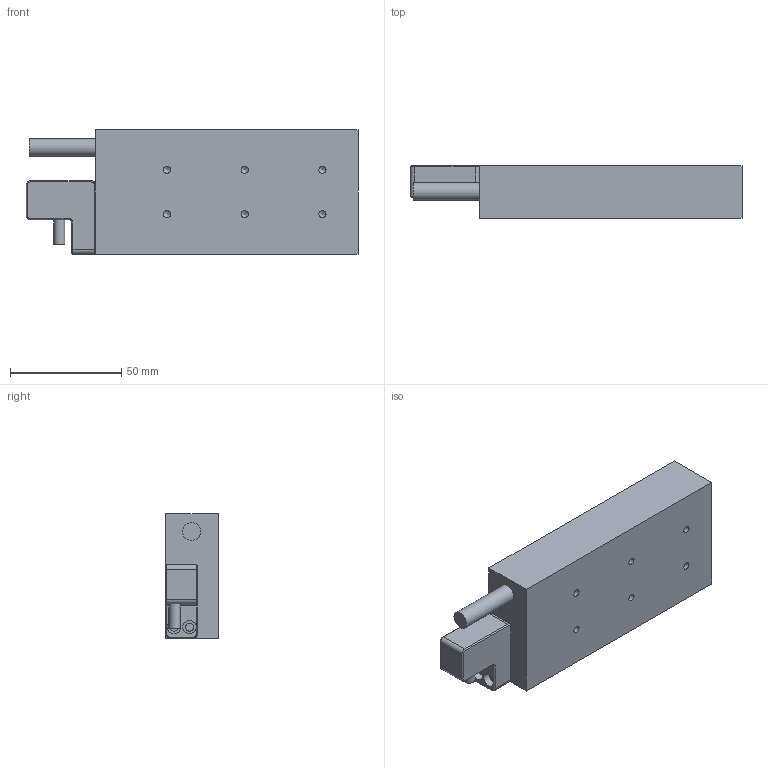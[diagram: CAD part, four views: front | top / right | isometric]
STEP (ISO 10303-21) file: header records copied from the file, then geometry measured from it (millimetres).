
FILE_DESCRIPTION( ( 'Unknown' ), '1' );
FILE_NAME( 'C:/Users/michael/Desktop/DPD56模型（业务用）/DPD56C2.stp', 'Unknown', ( 'Unknown' ), ( 'Unknown' ), 'PSStep 17.0.49', 'Unknown', ' ' );
FILE_SCHEMA( ( 'AUTOMOTIVE_DESIGN { 1 0 10303 214 1 1 1 1 }' ) );
Length unit declared in the file: millimetre
Products named in the file (3): Assem1; DPD56C2; 霍尔支架
Assembly tree (2 placements, depth 2):
  Assem1
    DPD56C2
    霍尔支架
Bounding box: 149.4 x 23.7 x 56 mm (x, y, z)
Volume: 167974.1 mm3; surface area: 26358.5 mm2
Topology: 2 solids, 3 shells, 73 faces, 164 edges, 101 vertices
Faces by surface type: plane 32, cylinder 21, cone 20
Full cylindrical faces by diameter (mm): 1.567 x2, 3.242 x6, 3.6 x2, 5 x1, 6 x2, 6.2 x1, 8 x1
Entity records: 2434 total; most frequent: DIRECTION 332, CARTESIAN_POINT 295, ORIENTED_EDGE 252, AXIS2_PLACEMENT_3D 130, EDGE_CURVE 126, EDGE_LOOP 104, VERTEX_POINT 93, FACE_OUTER_BOUND 88
